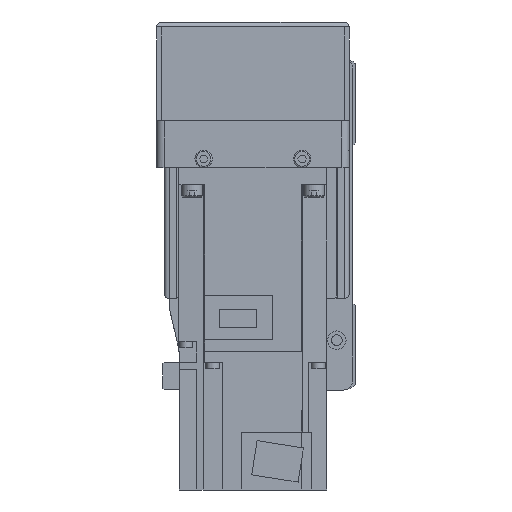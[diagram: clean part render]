
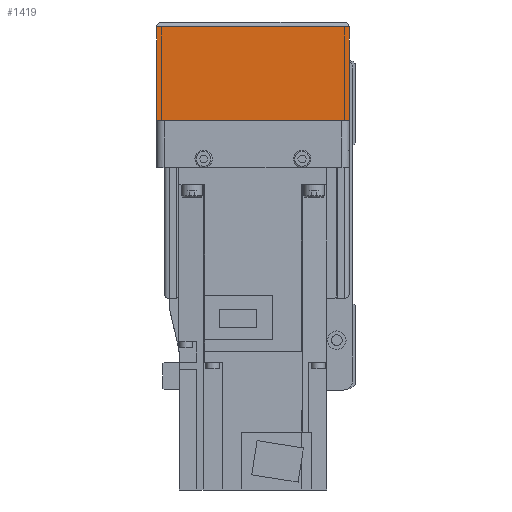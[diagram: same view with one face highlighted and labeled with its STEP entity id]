
A CAD part, left-side view. The second image highlights one B-rep face of the part: STEP entity #1419.
In plain terms, the highlighted planar face has unit normal (-1, 0, 0).
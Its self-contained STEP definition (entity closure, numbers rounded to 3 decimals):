
#1419 = ADVANCED_FACE( '', ( #3583 ), #3584, .F. );
#3583 = FACE_OUTER_BOUND( '', #6704, .T. );
#3584 = PLANE( '', #6705 );
#6704 = EDGE_LOOP( '', ( #10616, #10617, #10618, #10619 ) );
#6705 = AXIS2_PLACEMENT_3D( '', #10620, #10621, #10622 );
#10616 = ORIENTED_EDGE( '', *, *, #18587, .F. );
#10617 = ORIENTED_EDGE( '', *, *, #18220, .F. );
#10618 = ORIENTED_EDGE( '', *, *, #18588, .T. );
#10619 = ORIENTED_EDGE( '', *, *, #18589, .F. );
#10620 = CARTESIAN_POINT( '', ( -158., 36., 7. ) );
#10621 = DIRECTION( '', ( 1., 0., 0. ) );
#10622 = DIRECTION( '', ( 0., 0., -1. ) );
#18220 = EDGE_CURVE( '', #21852, #21854, #21855, .T. );
#18587 = EDGE_CURVE( '', #21854, #22487, #22488, .T. );
#18588 = EDGE_CURVE( '', #21852, #22489, #22490, .T. );
#18589 = EDGE_CURVE( '', #22487, #22489, #22491, .T. );
#21852 = VERTEX_POINT( '', #27148 );
#21854 = VERTEX_POINT( '', #27151 );
#21855 = LINE( '', #27152, #27153 );
#22487 = VERTEX_POINT( '', #28034 );
#22488 = LINE( '', #28035, #28036 );
#22489 = VERTEX_POINT( '', #28037 );
#22490 = LINE( '', #28038, #28039 );
#22491 = LINE( '', #28040, #28041 );
#27148 = CARTESIAN_POINT( '', ( -158., 39., -50. ) );
#27151 = CARTESIAN_POINT( '', ( -158., 39., -12.1 ) );
#27152 = CARTESIAN_POINT( '', ( -158., 39., -50. ) );
#27153 = VECTOR( '', #33647, 1000. );
#28034 = CARTESIAN_POINT( '', ( -158., -39., -12.1 ) );
#28035 = CARTESIAN_POINT( '', ( -158., 50., -12.1 ) );
#28036 = VECTOR( '', #34134, 1000. );
#28037 = CARTESIAN_POINT( '', ( -158., -39., -50. ) );
#28038 = CARTESIAN_POINT( '', ( -158., 40., -50. ) );
#28039 = VECTOR( '', #34135, 1000. );
#28040 = CARTESIAN_POINT( '', ( -158., -39., -12.1 ) );
#28041 = VECTOR( '', #34136, 1000. );
#33647 = DIRECTION( '', ( 0., 0., 1. ) );
#34134 = DIRECTION( '', ( 0., -1., 0. ) );
#34135 = DIRECTION( '', ( 0., -1., 0. ) );
#34136 = DIRECTION( '', ( 0., 0., -1. ) );
